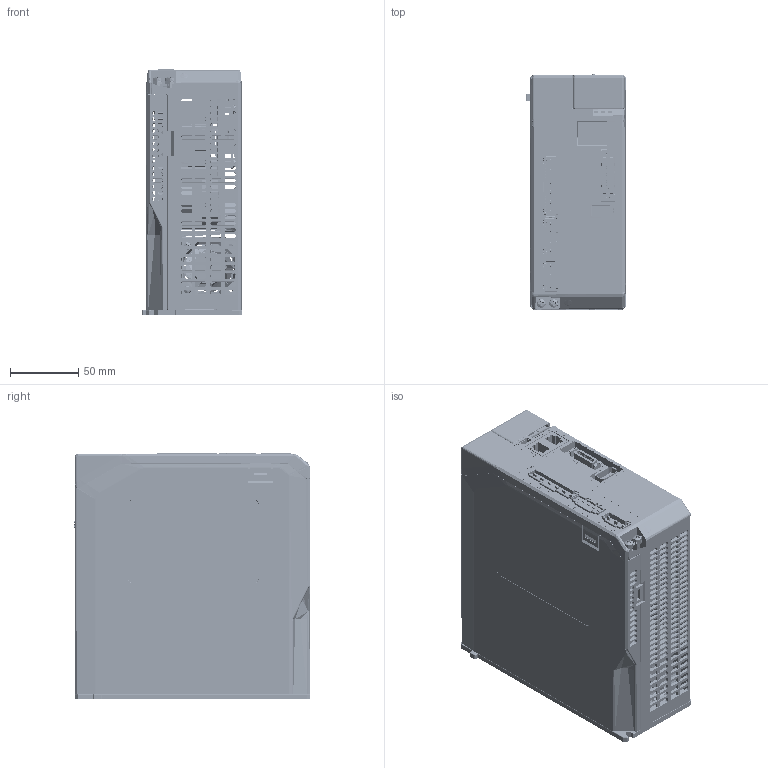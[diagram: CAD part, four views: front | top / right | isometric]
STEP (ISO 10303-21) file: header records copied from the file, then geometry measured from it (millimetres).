
FILE_DESCRIPTION (( 'STEP AP203' ), '1' );
FILE_NAME ('200VAC ,Rated power:1.5kW~2KW EtherCAT.STEP', '2024-09-18T13:08:31', ( '' ), ( '' ), 'SwSTEP 2.0', 'SolidWorks 2022', '' );
FILE_SCHEMA (( 'CONFIG_CONTROL_DESIGN' ));
Products named in the file (1): 200VAC ，Rated power：1.5kW~2KW EtherCAT
Bounding box: 73.05 x 172.3 x 180.9 mm (x, y, z)
Topology: 0 solids, 1739 shells, 20944 faces, 54567 edges, 36473 vertices
Faces by surface type: plane 14206, cylinder 3515, bspline 2562, cone 585, torus 40, sphere 36
Full cylindrical faces by diameter (mm): 0.01 x18
Entity records: 762508 total; most frequent: CARTESIAN_POINT 276653, ORIENTED_EDGE 104590, DIRECTION 86438, EDGE_CURVE 54208, LINE 37748, VECTOR 37748, VERTEX_POINT 36457, AXIS2_PLACEMENT_3D 24345
